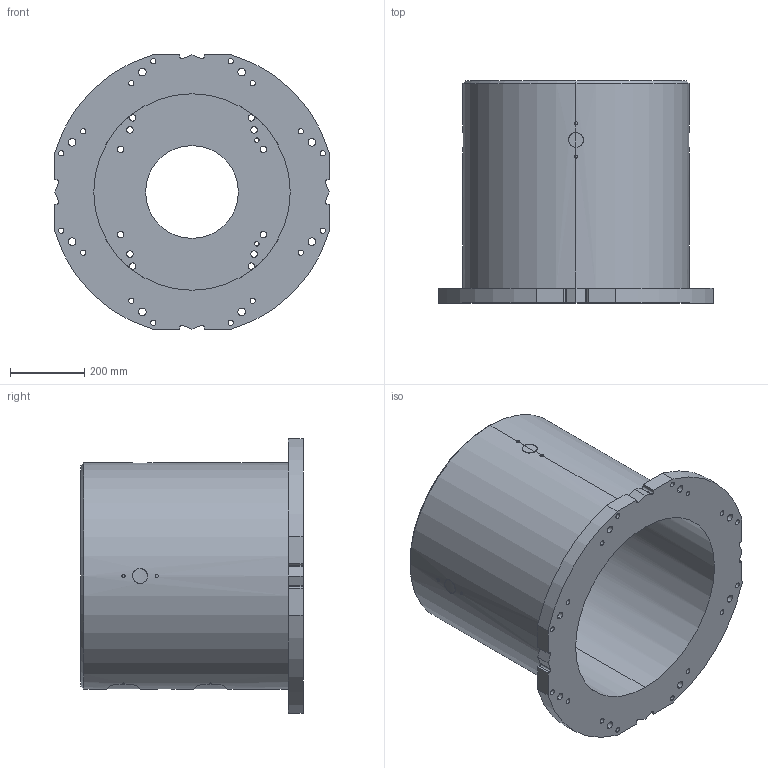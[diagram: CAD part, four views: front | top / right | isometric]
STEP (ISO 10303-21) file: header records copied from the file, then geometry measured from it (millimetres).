
FILE_DESCRIPTION (( 'STEP AP214' ), '1' );
FILE_NAME ('M-600.STEP', '2025-12-09T10:35:27', ( '' ), ( '' ), 'SwSTEP 2.0', 'SolidWorks 2022', '' );
FILE_SCHEMA (( 'AUTOMOTIVE_DESIGN' ));
Length unit declared in the file: millimetre
Products named in the file (1): M-600
Bounding box: 740 x 600 x 740 mm (x, y, z)
Volume: 55432943.4 mm3; surface area: 3007137.4 mm2
Topology: 1 solids, 1 shells, 215 faces, 597 edges, 394 vertices
Faces by surface type: cylinder 157, plane 28, bspline 24, cone 6
Entity records: 12806 total; most frequent: CARTESIAN_POINT 6333, ORIENTED_EDGE 1186, DIRECTION 1037, EDGE_CURVE 593, AXIS2_PLACEMENT_3D 406, VERTEX_POINT 394, EDGE_LOOP 307, LINE 225
